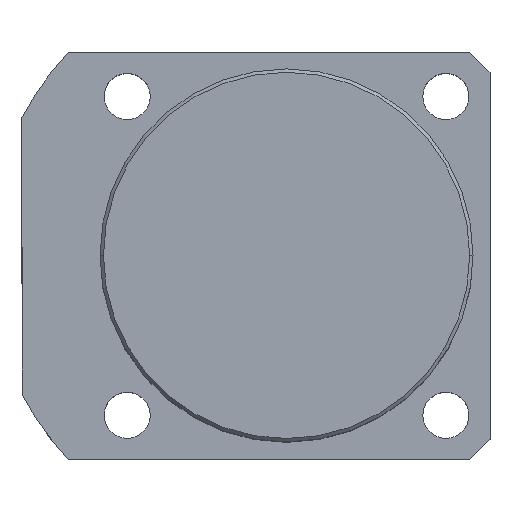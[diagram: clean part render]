
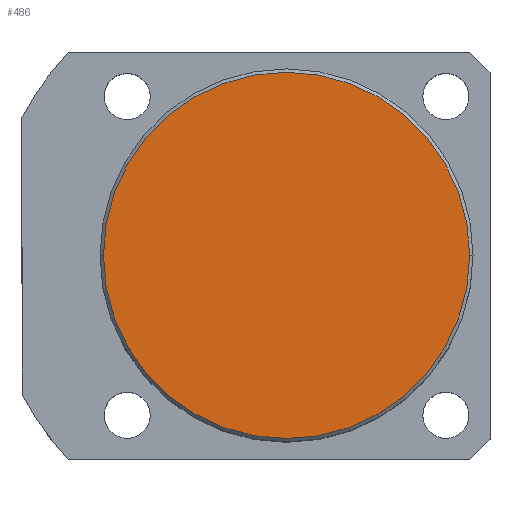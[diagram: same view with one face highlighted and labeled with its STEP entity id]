
A CAD part, top view. The second image highlights one B-rep face of the part: STEP entity #486.
In plain terms, the highlighted planar face has unit normal (0, 0, 1).
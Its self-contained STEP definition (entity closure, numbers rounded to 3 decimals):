
#279 = AXIS2_PLACEMENT_3D ( 'NONE', #991, #2164, #1666 ) ;
#346 = ORIENTED_EDGE ( 'NONE', *, *, #780, .T. ) ;
#387 = AXIS2_PLACEMENT_3D ( 'NONE', #941, #1629, #1127 ) ;
#486 = ADVANCED_FACE ( 'NONE', ( #1222 ), #660, .T. ) ;
#660 = PLANE ( 'NONE',  #279 ) ;
#780 = EDGE_CURVE ( 'NONE', #1178, #1341, #1066, .T. ) ;
#941 = CARTESIAN_POINT ( 'NONE',  ( 0., 0., 50. ) ) ;
#991 = CARTESIAN_POINT ( 'NONE',  ( 0., 0., 50. ) ) ;
#1035 = CARTESIAN_POINT ( 'NONE',  ( 27., 0., 50. ) ) ;
#1066 = CIRCLE ( 'NONE', #387, 27. ) ;
#1127 = DIRECTION ( 'NONE',  ( 1., 0., 0. ) ) ;
#1178 = VERTEX_POINT ( 'NONE', #1035 ) ;
#1222 = FACE_OUTER_BOUND ( 'NONE', #1774, .T. ) ;
#1308 = CIRCLE ( 'NONE', #1842, 27. ) ;
#1341 = VERTEX_POINT ( 'NONE', #1728 ) ;
#1345 = ORIENTED_EDGE ( 'NONE', *, *, #1389, .T. ) ;
#1389 = EDGE_CURVE ( 'NONE', #1341, #1178, #1308, .T. ) ;
#1429 = CARTESIAN_POINT ( 'NONE',  ( 0., 0., 50. ) ) ;
#1569 = DIRECTION ( 'NONE',  ( 0., 0., 1. ) ) ;
#1629 = DIRECTION ( 'NONE',  ( 0., 0., 1. ) ) ;
#1666 = DIRECTION ( 'NONE',  ( 1., 0., 0. ) ) ;
#1728 = CARTESIAN_POINT ( 'NONE',  ( -27., 0., 50. ) ) ;
#1774 = EDGE_LOOP ( 'NONE', ( #1345, #346 ) ) ;
#1842 = AXIS2_PLACEMENT_3D ( 'NONE', #1429, #1569, #2088 ) ;
#2088 = DIRECTION ( 'NONE',  ( 1., 0., 0. ) ) ;
#2164 = DIRECTION ( 'NONE',  ( 0., 0., 1. ) ) ;
